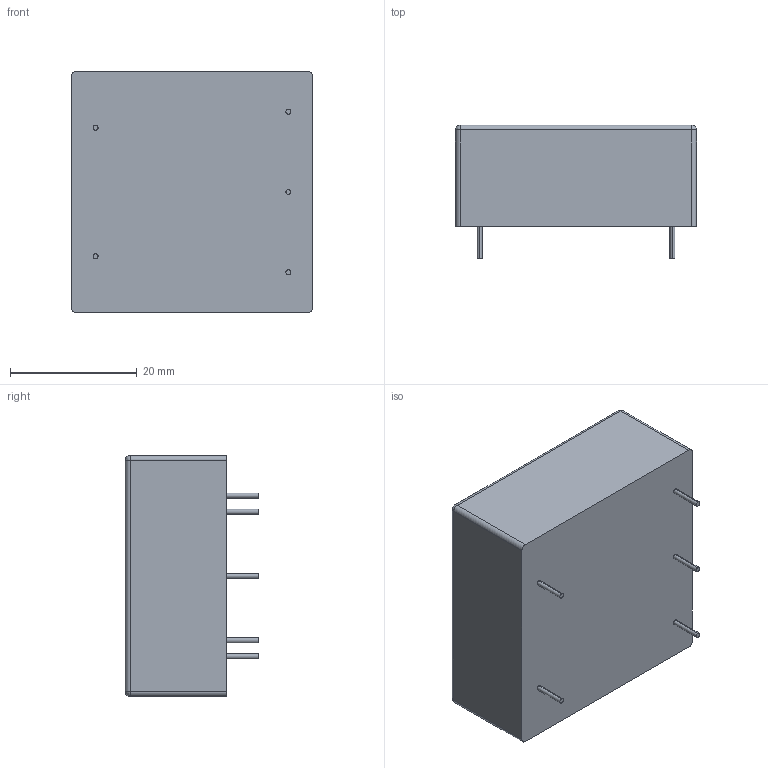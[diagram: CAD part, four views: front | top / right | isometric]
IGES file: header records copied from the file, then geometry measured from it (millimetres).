
Start section: SolidWorks IGES file using analytic representation for surfaces
Global section: file name: \\192.168.20.246\Eshare\Josh Moua\~For Darol\Checked .igs Files\G-Series\G01CT-G20CT.IGS; native system: SolidWorks 2017; preprocessor: SolidWorks 2017; author: asmith; date: 171031.104649; units: inch
Bounding box: 38.1 x 21.08 x 38.1 mm (x, y, z)
Surface area: 5333.2 mm2 (no closed solid volume)
Topology: 0 solids, 0 shells, 33 faces, 288 edges, 284 vertices
Faces by surface type: revolution 22, bspline 11
